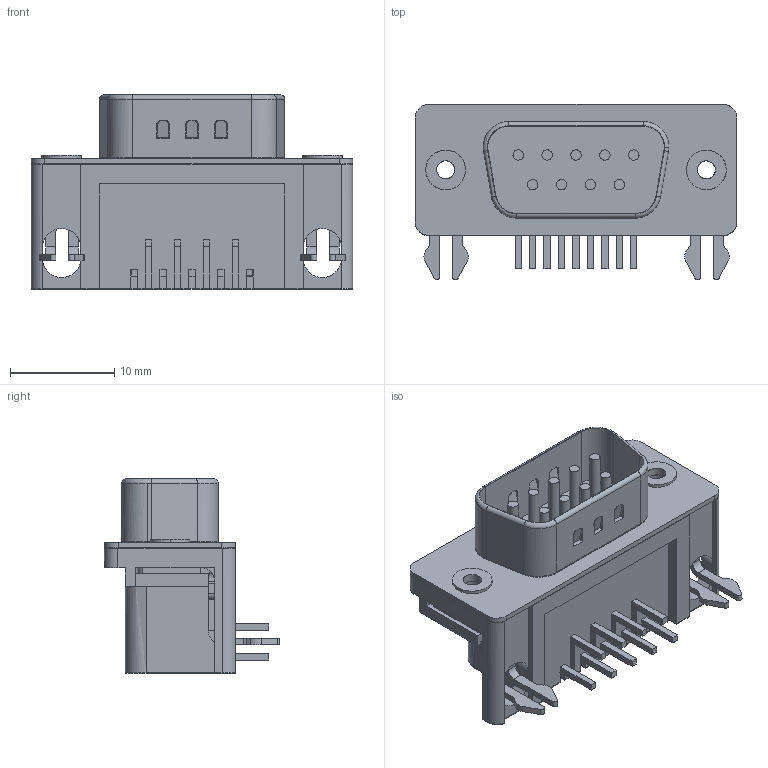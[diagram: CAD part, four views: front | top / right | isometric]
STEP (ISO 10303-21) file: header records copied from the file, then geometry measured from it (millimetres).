
FILE_DESCRIPTION (( 'STEP AP203' ), '1' );
FILE_NAME ('7906-A09MGA-1130801.STEP', '2024-08-01T02:55:31', ( '' ), ( '' ), 'SwSTEP 2.0', 'SolidWorks 2019', '' );
FILE_SCHEMA (( 'CONFIG_CONTROL_DESIGN' ));
Length unit declared in the file: millimetre
Products named in the file (2): 7906-A09MGA-1130801
Assembly tree (1 placements, depth 2):
  7906-A09MGA-1130801
    7906-A09MGA-1130801
Bounding box: 30.81 x 16.79 x 18.6 mm (x, y, z)
Volume: 3290.8 mm3; surface area: 4365.1 mm2
Topology: 16 solids, 16 shells, 571 faces, 1436 edges, 897 vertices
Faces by surface type: bspline 400, plane 166, cylinder 5
Full cylindrical faces by diameter (mm): 3.4 x2
Entity records: 19501 total; most frequent: CARTESIAN_POINT 9471, ORIENTED_EDGE 2840, EDGE_CURVE 1420, B_SPLINE_CURVE_WITH_KNOTS 952, VERTEX_POINT 895, DIRECTION 687, EDGE_LOOP 617, FACE_OUTER_BOUND 573
